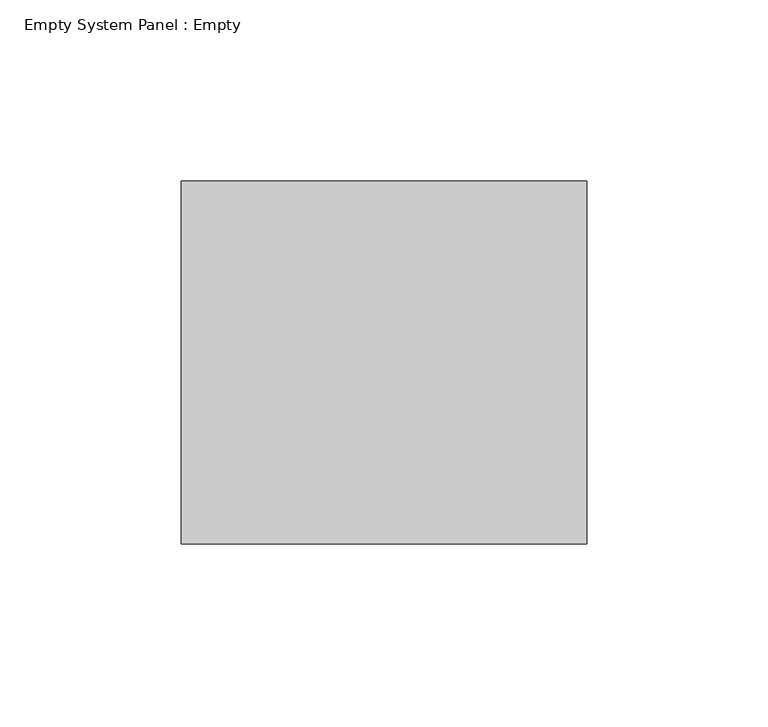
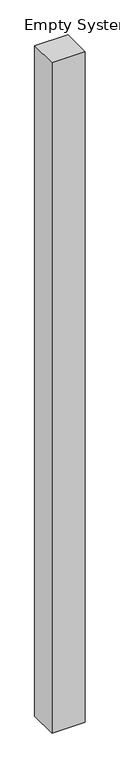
"""IFC4 building model written with IfcOpenShell, lengths in millimetres: plate geometry, Empty System Panel : Empty."""

import ifcopenshell
import ifcopenshell.guid

model = None  # the IFC model being written
_history = None  # IfcOwnerHistory: only IFC2X3 demands one
_inside = {}  # id of a spatial element -> (the spatial element, [elements in it])
_under = {}  # id of a project, library or spatial element -> (it, [spatial elements below it])
_declared = {}  # id of a project -> (the project, [libraries it declares])
_typed = {}  # id of a type object -> (the type object, [elements of that type])
_made_of = {}  # id of a material, layer set ... -> (it, [elements and type objects made of it])


def new_model(schema):
    """Start an empty IFC model of exactly this schema.

    Asked for "IFC4X3", IfcOpenShell would pick the latest addendum, in which some entities
    have other attributes; the version numbers below select the first issue.
    IFC2X3 requires an IfcOwnerHistory on every rooted entity: one is made here for all.
    """
    global model, _history
    if schema == "IFC4X3":
        model = ifcopenshell.file(schema_version=(4, 3, 0, 0))
    else:
        model = ifcopenshell.file(schema=schema)
    _inside.clear()
    _under.clear()
    _declared.clear()
    _typed.clear()
    _made_of.clear()
    _history = None
    if model.schema == "IFC2X3":
        org = make("IfcOrganization", Name="unknown")
        user = make(
            "IfcPersonAndOrganization",
            ThePerson=make("IfcPerson", FamilyName="unknown"),
            TheOrganization=org,
        )
        app = make(
            "IfcApplication",
            ApplicationDeveloper=org,
            Version="unknown",
            ApplicationFullName="unknown",
            ApplicationIdentifier="unknown",
        )
        _history = make(
            "IfcOwnerHistory",
            OwningUser=user,
            OwningApplication=app,
            ChangeAction="ADDED",
            CreationDate=0,
        )
    return model


def make(cls, **values):
    """One entity of the class cls with the attributes given. An attribute that is None is left unset."""
    return model.create_entity(
        cls, **{name: value for name, value in values.items() if value is not None}
    )


def rooted(cls, **values):
    """An entity with a GlobalId (a new one), such as an element, a storey or a relation."""
    return make(cls, GlobalId=ifcopenshell.guid.new(), OwnerHistory=_history, **values)


def si_unit(unit_type, name, prefix=None):
    """IfcSIUnit, for example si_unit("LENGTHUNIT", "METRE", prefix="MILLI")."""
    return make("IfcSIUnit", UnitType=unit_type, Prefix=prefix, Name=name)


def assignment(units):
    """IfcUnitAssignment: the units of a project."""
    return None if units is None else make("IfcUnitAssignment", Units=units)


def point(xyz):
    """IfcCartesianPoint."""
    return None if xyz is None else make("IfcCartesianPoint", Coordinates=xyz)


def direction(xyz):
    """IfcDirection."""
    return None if xyz is None else make("IfcDirection", DirectionRatios=xyz)


def frame(location, z_axis=None, x_axis=None):
    """IfcAxis2Placement3D, a coordinate frame: its origin and axes. An axis left out is left unset."""
    return make(
        "IfcAxis2Placement3D",
        Location=point(location),
        Axis=direction(z_axis),
        RefDirection=direction(x_axis),
    )


def origin():
    """The frame at (0, 0, 0) with its axes left unset."""
    return frame((0.0, 0.0, 0.0))


def origin_with_axes():
    """The frame at (0, 0, 0) with the z axis (0, 0, 1) and the x axis (1, 0, 0) written out."""
    return frame((0.0, 0.0, 0.0), z_axis=(0.0, 0.0, 1.0), x_axis=(1.0, 0.0, 0.0))


def place(relative_to, where):
    """IfcLocalPlacement: puts the frame where relative to a parent placement (None: the world)."""
    return make(
        "IfcLocalPlacement", PlacementRelTo=relative_to, RelativePlacement=where
    )


def context(
    kind, dimensions, precision=None, world=None, true_north=None, identifier=None
):
    """IfcGeometricRepresentationContext, for example the 3D "Model" context."""
    return make(
        "IfcGeometricRepresentationContext",
        ContextIdentifier=identifier,
        ContextType=kind,
        CoordinateSpaceDimension=dimensions,
        Precision=precision,
        WorldCoordinateSystem=world,
        TrueNorth=true_north,
    )


def project(units=None, contexts=None):
    """IfcProject with its units and contexts."""
    return rooted(
        "IfcProject",
        Name="project",
        RepresentationContexts=contexts,
        UnitsInContext=assignment(units),
    )


def spatial(cls, under=None, at=None, **own):
    """A site, building, storey or space (cls), placed at a placement, below another one or the project."""
    s = rooted(cls, ObjectPlacement=at, **own)
    if under is not None:
        _under.setdefault(under.id(), (under, []))[1].append(s)
    return s


def polyline(points):
    """IfcPolyline through the points."""
    return make("IfcPolyline", Points=[point(p) for p in points])


def outline(outer, holes=None, kind="AREA"):
    """IfcArbitraryClosedProfileDef: a profile drawn as a closed curve; with holes, ...WithVoids."""
    if holes is None:
        return make("IfcArbitraryClosedProfileDef", ProfileType=kind, OuterCurve=outer)
    return make(
        "IfcArbitraryProfileDefWithVoids",
        ProfileType=kind,
        OuterCurve=outer,
        InnerCurves=holes,
    )


def extrude(swept, where, along, depth):
    """IfcExtrudedAreaSolid: the profile swept, set in the frame where, extruded along a direction by depth."""
    return make(
        "IfcExtrudedAreaSolid",
        SweptArea=swept,
        Position=where,
        ExtrudedDirection=direction(along),
        Depth=depth,
    )


def shape(context_of_items, identifier, shape_type, items):
    """IfcShapeRepresentation: the items that make up one representation, for example the "Body"."""
    return make(
        "IfcShapeRepresentation",
        ContextOfItems=context_of_items,
        RepresentationIdentifier=identifier,
        RepresentationType=shape_type,
        Items=items,
    )


def source(mapping_origin, context_of_items, identifier, shape_type, items):
    """IfcRepresentationMap: a shape defined once, which mapped items show again and again."""
    return make(
        "IfcRepresentationMap",
        MappingOrigin=mapping_origin,
        MappedRepresentation=shape(context_of_items, identifier, shape_type, items),
    )


def transform(
    local_origin,
    x_axis=None,
    y_axis=None,
    z_axis=None,
    scale=None,
    scale2=None,
    scale3=None,
    uniform=True,
):
    """IfcCartesianTransformationOperator3D, or its non-uniform kind. x_axis, y_axis, z_axis: its Axis1, 2, 3."""
    if uniform:
        return make(
            "IfcCartesianTransformationOperator3D",
            Axis1=direction(x_axis),
            Axis2=direction(y_axis),
            LocalOrigin=point(local_origin),
            Scale=scale,
            Axis3=direction(z_axis),
        )
    return make(
        "IfcCartesianTransformationOperator3DnonUniform",
        Axis1=direction(x_axis),
        Axis2=direction(y_axis),
        LocalOrigin=point(local_origin),
        Scale=scale,
        Axis3=direction(z_axis),
        Scale2=scale2,
        Scale3=scale3,
    )


def mapped(mapping_source, mapping_target):
    """IfcMappedItem: shows the shape of a source again, moved by a transform."""
    return make(
        "IfcMappedItem", MappingSource=mapping_source, MappingTarget=mapping_target
    )


def made_of(thing, what):
    """Note that an element or type object is made of a material, layer set ...; save() writes the relation."""
    if what is not None:
        _made_of.setdefault(what.id(), (what, []))[1].append(thing)
    return thing


def element(
    cls,
    number,
    at=None,
    inside=None,
    cuts=None,
    type_object=None,
    material=None,
    context=None,
    identifier="Body",
    shape_type=None,
    held_by="IfcProductDefinitionShape",
    body=None,
    shapes=None,
    **own,
):
    """One element of the class cls, such as IfcWall. Its Tag is "e" and its number.

    at: its placement. inside: the storey or other place that contains it. cuts: it is an
    opening in that element (IfcRelVoidsElement). A single representation is given by context,
    identifier, shape_type and body (its items); several are given by shapes. held_by: the class
    of the entity that holds the representations. save() writes the other relations.
    """
    e = rooted(cls, Tag="e%d" % number, ObjectPlacement=at, **own)
    if body is not None:
        shapes = [shape(context, identifier, shape_type, body)]
    if shapes is not None:
        e.Representation = make(held_by, Representations=shapes)
    if inside is not None:
        _inside.setdefault(inside.id(), (inside, []))[1].append(e)
    if cuts is not None:
        rooted(
            "IfcRelVoidsElement", RelatingBuildingElement=cuts, RelatedOpeningElement=e
        )
    if type_object is not None:
        _typed.setdefault(type_object.id(), (type_object, []))[1].append(e)
    return made_of(e, material)


def aggregate(whole, parts):
    """IfcRelAggregates: a whole, such as a stair, and the parts it consists of."""
    return rooted("IfcRelAggregates", RelatingObject=whole, RelatedObjects=parts)


def save(model, path):
    """Write the relations noted so far, then the file.

    IfcRelAggregates (storeys below a building ...), IfcRelContainedInSpatialStructure (elements
    in a storey), IfcRelDefinesByType, IfcRelAssociatesMaterial and IfcRelDeclares: one each for
    every whole, place, type object, material and project.
    """
    for whole, parts in _under.values():
        aggregate(whole, parts)
    for where, things in _inside.values():
        rooted(
            "IfcRelContainedInSpatialStructure",
            RelatedElements=things,
            RelatingStructure=where,
        )
    for kind, things in _typed.values():
        rooted("IfcRelDefinesByType", RelatedObjects=things, RelatingType=kind)
    for what, things in _made_of.values():
        rooted("IfcRelAssociatesMaterial", RelatedObjects=things, RelatingMaterial=what)
    for by, libraries in _declared.values():
        rooted("IfcRelDeclares", RelatingContext=by, RelatedDefinitions=libraries)
    model.write(path)


def empty_system_panel_empty_7c5ddf91(model_context):
    return source(origin(), model_context, "Body", "SweptSolid", [
        extrude(outline(polyline([(55.8270233, -50.0), (-55.8270233, -50.0), (-55.8270233, 50.0), (55.8270233, 50.0), (55.8270233, -50.0)])), origin_with_axes(), (0.0, 0.0, 1.0), 2380.0),
    ])


if __name__ == "__main__":
    model = new_model("IFC4")
    model_context = context("Model", 3, world=origin())
    ifc_project = project(units=[si_unit("LENGTHUNIT", "METRE", prefix="MILLI")], contexts=[model_context])
    site = spatial("IfcSite", under=ifc_project)
    building = spatial("IfcBuilding", under=site)
    placement = place(None, origin())
    empty_system_panel_empty_shape = empty_system_panel_empty_7c5ddf91(model_context)
    element("IfcPlate", 1, ObjectType="Empty System Panel : Empty", at=placement, inside=building, context=model_context, shape_type="MappedRepresentation", body=[
        mapped(empty_system_panel_empty_shape, transform((0.0, 0.0, 0.0), x_axis=(1.0, 0.0, 0.0), y_axis=(0.0, 1.0, 0.0), z_axis=(0.0, 0.0, 1.0))),
    ])
    save(model, "model.ifc")
